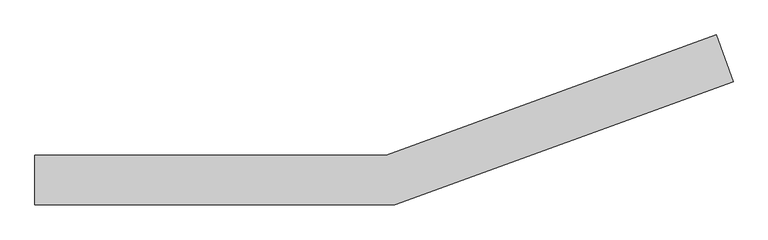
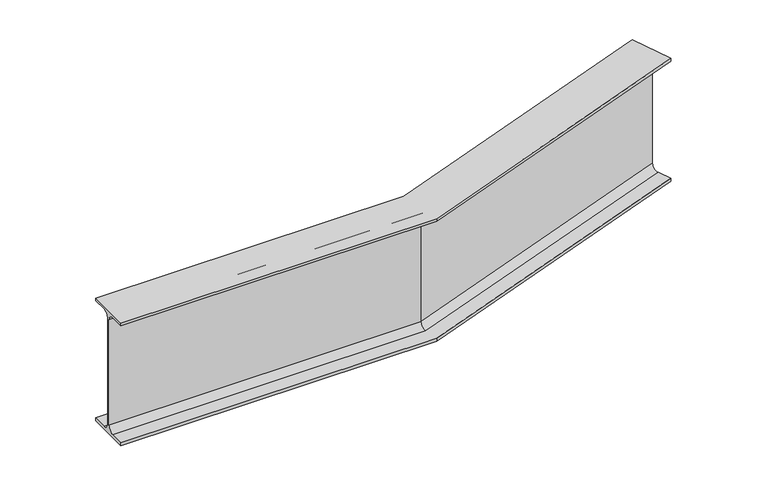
"""IFC4 building model written with IfcOpenShell, lengths in millimetres: beam geometry, Cranked Beam B3 : Cranked Beam B1."""

from ifc_helpers import new_model, si_unit, frame, origin, place, context, project, spatial, polyline, circle_curve, ellipse_curve, source, transform, mapped, element, save
from ifc_brep_helpers import plane_surface, revolved_surface, advanced_brep


def beam_9097a8d7(model_context):
    return source(origin(), model_context, "Body", "AdvancedBrep", [
        advanced_brep(
        [(30484.4500022, 15287.2000005, 11260.0), (30484.4500022, 15337.2000005, 11260.0), (30484.4500022, 15359.2000005, 11282.0), (30484.4500022, 15359.2000005, 11668.0), (30484.4500022, 15337.2000005, 11690.0), (30484.4500022, 15287.2000005, 11690.0), (30484.4500022, 15287.2000005, 11700.0), (30484.4500022, 15439.2000005, 11700.0), (30484.4500022, 15439.2000005, 11690.0), (30484.4500022, 15389.2000005, 11690.0), (30484.4500022, 15367.2000005, 11668.0), (30484.4500022, 15367.2000005, 11282.0), (30484.4500022, 15389.2000005, 11260.0), (30484.4500022, 15439.2000005, 11260.0), (30484.4500022, 15439.2000005, 11250.0), (30484.4500022, 15287.2000005, 11250.0), (31580.6961428, 15287.2000005, 11260.0), (32610.830551, 15662.1382623, 11260.0), (32593.7295439, 15709.1228934, 11260.0), (31571.8797938, 15337.2000005, 11260.0), (31568.0006002, 15359.2000005, 11282.0), (31568.0006002, 15359.2000005, 11668.0), (31571.8797938, 15337.2000005, 11690.0), (32593.7295439, 15709.1228934, 11690.0), (32610.830551, 15662.1382623, 11690.0), (31580.6961428, 15287.2000005, 11690.0), (31580.6961428, 15287.2000005, 11700.0), (32610.830551, 15662.1382623, 11700.0), (32558.8434892, 15804.9715407, 11700.0), (31553.8944418, 15439.2000005, 11700.0), (31553.8944418, 15439.2000005, 11690.0), (32558.8434892, 15804.9715407, 11690.0), (32575.9444964, 15757.9869096, 11690.0), (31562.7107908, 15389.2000005, 11690.0), (31566.5899844, 15367.2000005, 11668.0), (31566.5899844, 15367.2000005, 11282.0), (31562.7107908, 15389.2000005, 11260.0), (32575.9444964, 15757.9869096, 11260.0), (32558.8434892, 15804.9715407, 11260.0), (31553.8944418, 15439.2000005, 11260.0), (31553.8944418, 15439.2000005, 11250.0), (32558.8434892, 15804.9715407, 11250.0), (32610.830551, 15662.1382623, 11250.0), (31580.6961428, 15287.2000005, 11250.0), (32583.4689396, 15737.313672, 11282.0), (32583.4689396, 15737.313672, 11668.0), (32586.2051007, 15729.796131, 11668.0), (32586.2051007, 15729.796131, 11282.0)],
        [
            (0, 1),
            (1, 2, circle_curve(frame((30484.4500022, 15337.2000005, 11282.0), z_axis=(1.0, 0.0, 0.0), x_axis=(0.0, 1.0, 0.0)), 22.0)),
            (2, 3),
            (3, 4, circle_curve(frame((30484.4500022, 15337.2000005, 11668.0), z_axis=(1.0, 0.0, 0.0), x_axis=(0.0, 1.0, 0.0)), 22.0)),
            (4, 5),
            (5, 6),
            (6, 7),
            (7, 8),
            (8, 9),
            (9, 10, circle_curve(frame((30484.4500022, 15389.2000005, 11668.0), z_axis=(1.0, 0.0, 0.0), x_axis=(0.0, 1.0, 0.0)), 22.0)),
            (10, 11),
            (11, 12, circle_curve(frame((30484.4500022, 15389.2000005, 11282.0), z_axis=(1.0, 0.0, 0.0), x_axis=(0.0, 1.0, 0.0)), 22.0)),
            (12, 13),
            (13, 14),
            (14, 15),
            (15, 0),
            (0, 16),
            (16, 17),
            (17, 18),
            (18, 19),
            (19, 1),
            (19, 20, ellipse_curve(frame((31571.8797938, 15337.2000005, 11282.0), z_axis=(0.9848077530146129, 0.17364817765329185, 0.0), x_axis=(0.17364817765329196, -0.984807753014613, 0.0)), 22.3393855, 22.0)),
            (20, 2),
            (20, 21),
            (21, 3),
            (21, 22, ellipse_curve(frame((31571.8797938, 15337.2000005, 11668.0), z_axis=(0.9848077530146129, 0.17364817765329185, 0.0), x_axis=(0.17364817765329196, -0.984807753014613, 0.0)), 22.3393855, 22.0)),
            (22, 4),
            (22, 23),
            (23, 24),
            (24, 25),
            (25, 5),
            (25, 26),
            (26, 6),
            (26, 27),
            (27, 28),
            (28, 29),
            (29, 7),
            (29, 30),
            (30, 8),
            (30, 31),
            (31, 32),
            (32, 33),
            (33, 9),
            (33, 34, ellipse_curve(frame((31562.7107908, 15389.2000005, 11668.0), z_axis=(0.9848077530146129, 0.17364817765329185, 0.0), x_axis=(0.17364817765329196, -0.984807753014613, 0.0)), 22.3393855, 22.0)),
            (34, 10),
            (34, 35),
            (35, 11),
            (35, 36, ellipse_curve(frame((31562.7107908, 15389.2000005, 11282.0), z_axis=(0.9848077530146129, 0.17364817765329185, 0.0), x_axis=(0.17364817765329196, -0.984807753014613, 0.0)), 22.3393855, 22.0)),
            (36, 12),
            (36, 37),
            (37, 38),
            (38, 39),
            (39, 13),
            (39, 40),
            (40, 14),
            (40, 41),
            (41, 42),
            (42, 43),
            (43, 15),
            (43, 16),
            (17, 42),
            (41, 38),
            (37, 44, circle_curve(frame((32575.9444964, 15757.9869096, 11282.0), z_axis=(-0.9396926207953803, -0.34202014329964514, 0.0), x_axis=(-0.34202014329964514, 0.9396926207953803, 0.0)), 22.0)),
            (44, 45),
            (45, 32, circle_curve(frame((32575.9444964, 15757.9869096, 11668.0), z_axis=(-0.9396926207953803, -0.34202014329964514, 0.0), x_axis=(-0.34202014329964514, 0.9396926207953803, 0.0)), 22.0)),
            (31, 28),
            (27, 24),
            (23, 46, circle_curve(frame((32593.7295439, 15709.1228934, 11668.0), z_axis=(-0.9396926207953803, -0.34202014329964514, 0.0), x_axis=(-0.34202014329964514, 0.9396926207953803, 0.0)), 22.0)),
            (46, 47),
            (47, 18, circle_curve(frame((32593.7295439, 15709.1228934, 11282.0), z_axis=(-0.9396926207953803, -0.34202014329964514, 0.0), x_axis=(-0.34202014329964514, 0.9396926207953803, 0.0)), 22.0)),
            (47, 20),
            (46, 21),
            (45, 34),
            (44, 35),
        ],
        [
            plane_surface(frame((30484.4500022, 15363.2000005, 11700.0), z_axis=(-1.0, 0.0, 0.0), x_axis=(0.0, 0.0, 1.0))),
            plane_surface(frame((30484.4500022, 15287.2000005, 11260.0), z_axis=(0.0, 0.0, 1.0), x_axis=(1.0, 0.0, 0.0))),
            revolved_surface(polyline([(31575.758987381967, 15359.2000005, 11282.0), (30484.4500022, 15359.2000005, 11282.0)]), (30484.4500022, 15337.2000005, 11282.0), (1.0, 0.0, 0.0)),
            plane_surface(frame((30484.4500022, 15359.2000005, 11282.0), z_axis=(0.0, -1.0, 0.0), x_axis=(1.0, 0.0, 0.0))),
            revolved_surface(polyline([(31575.758987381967, 15359.2000005, 11668.0), (30484.4500022, 15359.2000005, 11668.0)]), (30484.4500022, 15337.2000005, 11668.0), (1.0, 0.0, 0.0)),
            plane_surface(frame((30484.4500022, 15337.2000005, 11690.0), z_axis=(0.0, 0.0, -1.0), x_axis=(1.0, 0.0, 0.0))),
            plane_surface(frame((30484.4500022, 15287.2000005, 11690.0), z_axis=(0.0, -1.0, 0.0), x_axis=(1.0, 0.0, 0.0))),
            plane_surface(frame((30484.4500022, 15287.2000005, 11700.0), z_axis=(0.0, 0.0, 1.0), x_axis=(1.0, 0.0, 0.0))),
            plane_surface(frame((30484.4500022, 15439.2000005, 11700.0), z_axis=(0.0, 1.0, 0.0), x_axis=(1.0, 0.0, 0.0))),
            plane_surface(frame((30484.4500022, 15439.2000005, 11690.0), z_axis=(0.0, 0.0, -1.0), x_axis=(1.0, 0.0, 0.0))),
            revolved_surface(polyline([(31566.5899844, 15411.2000005, 11668.0), (30484.4500022, 15411.2000005, 11668.0)]), (30484.4500022, 15389.2000005, 11668.0), (1.0, 0.0, 0.0)),
            plane_surface(frame((30484.4500022, 15367.2000005, 11668.0), z_axis=(0.0, 1.0, 0.0), x_axis=(1.0, 0.0, 0.0))),
            revolved_surface(polyline([(31566.5899844, 15411.2000005, 11282.0), (30484.4500022, 15411.2000005, 11282.0)]), (30484.4500022, 15389.2000005, 11282.0), (1.0, 0.0, 0.0)),
            plane_surface(frame((30484.4500022, 15389.2000005, 11260.0), z_axis=(0.0, 0.0, 1.0), x_axis=(1.0, 0.0, 0.0))),
            plane_surface(frame((30484.4500022, 15439.2000005, 11260.0), z_axis=(0.0, 1.0, 0.0), x_axis=(1.0, 0.0, 0.0))),
            plane_surface(frame((30484.4500022, 15439.2000005, 11250.0), z_axis=(0.0, 0.0, -1.0), x_axis=(1.0, 0.0, 0.0))),
            plane_surface(frame((30484.4500022, 15287.2000005, 11250.0), z_axis=(0.0, -1.0, 0.0), x_axis=(1.0, 0.0, 0.0))),
            plane_surface(frame((32584.8370201, 15733.5549015, 11700.0), z_axis=(0.9396926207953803, 0.34202014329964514, 0.0), x_axis=(0.0, 0.0, 1.0))),
            revolved_surface(polyline([(32586.205100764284, 15729.796131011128, 11282.0), (31560.710101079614, 15356.54647576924, 11282.0)]), (31576.187816, 15338.7679923, 11282.0), (0.9396926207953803, 0.34202014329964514, 0.0)),
            plane_surface(frame((31568.0006002, 15359.2000005, 11282.0), z_axis=(0.342020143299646, -0.9396926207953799, 0.0), x_axis=(0.9396926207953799, 0.342020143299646, 0.0))),
            revolved_surface(polyline([(32586.205100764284, 15729.796131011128, 11668.0), (31560.710101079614, 15356.54647576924, 11668.0)]), (31576.187816, 15338.7679923, 11668.0), (0.9396926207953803, 0.34202014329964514, 0.0)),
            plane_surface(frame((31580.6961428, 15287.2000005, 11690.0), z_axis=(0.3420201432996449, -0.9396926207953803, 0.0), x_axis=(0.9396926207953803, 0.3420201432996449, 0.0))),
            plane_surface(frame((31553.8944418, 15439.2000005, 11700.0), z_axis=(-0.3420201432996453, 0.9396926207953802, 0.0), x_axis=(0.9396926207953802, 0.3420201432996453, 0.0))),
            revolved_surface(polyline([(32568.420053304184, 15778.660147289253, 11668.0), (31551.541098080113, 15408.546475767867, 11668.0)]), (31558.4027686, 15387.6320086, 11668.0), (0.9396926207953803, 0.34202014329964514, 0.0)),
            plane_surface(frame((31566.5899844, 15367.2000005, 11668.0), z_axis=(-0.3420201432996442, 0.9396926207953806, 0.0), x_axis=(0.9396926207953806, 0.3420201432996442, 0.0))),
            revolved_surface(polyline([(32568.420053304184, 15778.660147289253, 11282.0), (31551.541098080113, 15408.546475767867, 11282.0)]), (31558.4027686, 15387.6320086, 11282.0), (0.9396926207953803, 0.34202014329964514, 0.0)),
            plane_surface(frame((31553.8944418, 15439.2000005, 11260.0), z_axis=(-0.3420201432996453, 0.9396926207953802, 0.0), x_axis=(0.9396926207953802, 0.3420201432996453, 0.0))),
            plane_surface(frame((31580.6961428, 15287.2000005, 11250.0), z_axis=(0.3420201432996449, -0.9396926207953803, 0.0), x_axis=(0.9396926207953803, 0.3420201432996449, 0.0))),
        ],
        [
            (0, [[1, 2, 3, 4, 5, 6, 7, 8, 9, 10, 11, 12, 13, 14, 15, 16]]),
            (1, [[-1, 17, 18, 19, 20, 21]]),
            (2, [[-2, -21, 22, 23]]),
            (3, [[-3, -23, 24, 25]]),
            (4, [[-4, -25, 26, 27]]),
            (5, [[-5, -27, 28, 29, 30, 31]]),
            (6, [[-6, -31, 32, 33]]),
            (7, [[-7, -33, 34, 35, 36, 37]]),
            (8, [[-8, -37, 38, 39]]),
            (9, [[-9, -39, 40, 41, 42, 43]]),
            (10, [[-10, -43, 44, 45]]),
            (11, [[-11, -45, 46, 47]]),
            (12, [[-12, -47, 48, 49]]),
            (13, [[-13, -49, 50, 51, 52, 53]]),
            (14, [[-14, -53, 54, 55]]),
            (15, [[-15, -55, 56, 57, 58, 59]]),
            (16, [[-16, -59, 60, -17]]),
            (17, [[61, -57, 62, -51, 63, 64, 65, -41, 66, -35, 67, -29, 68, 69, 70, -19]]),
            (18, [[-22, -20, -70, 71]]),
            (19, [[-24, -71, -69, 72]]),
            (20, [[-26, -72, -68, -28]]),
            (21, [[-32, -30, -67, -34]]),
            (22, [[-38, -36, -66, -40]]),
            (23, [[-44, -42, -65, 73]]),
            (24, [[-46, -73, -64, 74]]),
            (25, [[-48, -74, -63, -50]]),
            (26, [[-54, -52, -62, -56]]),
            (27, [[-60, -58, -61, -18]]),
        ],
    ),
    ])


if __name__ == "__main__":
    model = new_model("IFC4")
    model_context = context("Model", 3, world=origin())
    ifc_project = project(units=[si_unit("LENGTHUNIT", "METRE", prefix="MILLI")], contexts=[model_context])
    site = spatial("IfcSite", under=ifc_project)
    building = spatial("IfcBuilding", under=site)
    placement = place(None, origin())
    beam_shape = beam_9097a8d7(model_context)
    element("IfcBeam", 1, ObjectType="Cranked Beam B3 : Cranked Beam B1", at=placement, inside=building, context=model_context, shape_type="MappedRepresentation", body=[
        mapped(beam_shape, transform((0.0, 0.0, 0.0), x_axis=(1.0, 0.0, 0.0), y_axis=(0.0, 1.0, 0.0), z_axis=(0.0, 0.0, 1.0))),
    ])
    save(model, "model.ifc")
